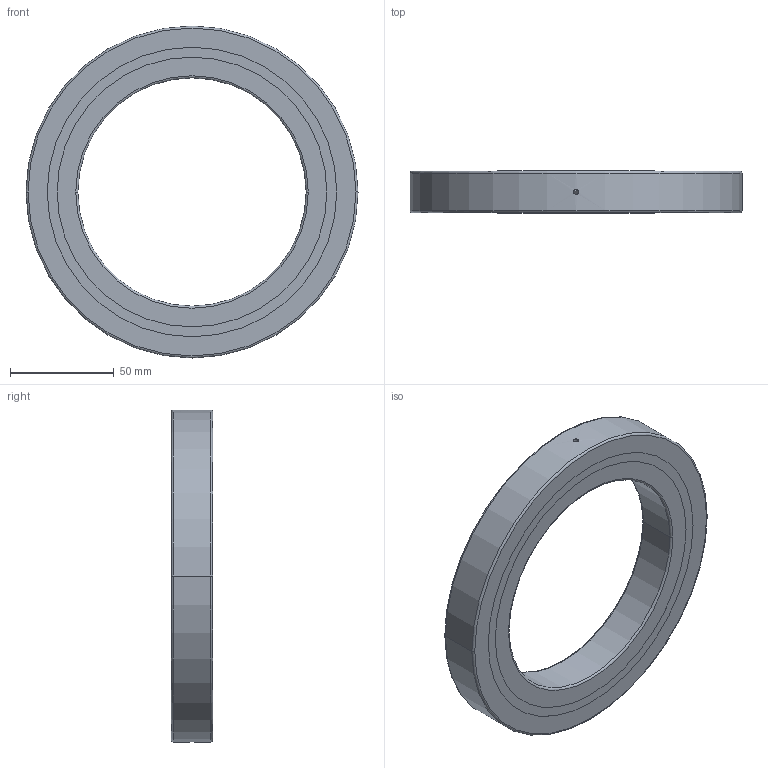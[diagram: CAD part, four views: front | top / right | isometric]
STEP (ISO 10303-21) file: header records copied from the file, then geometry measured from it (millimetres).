
FILE_DESCRIPTION(('starvars output'),'2;1');
FILE_NAME('cv20160920045701000003461.stp','04:57:02 2016/09/20',( 'Thomas Industrial Network Germany GmbH'),( 'Thomas Industrial Network Germany GmbH'),'unknown preprocess','ACIS' ,'unknown authorization');
FILE_SCHEMA(('AUTOMOTIVE_DESIGN_CC2 {UNKNOWN IMPLEMENTATION LEVEL}'));
Length unit declared in the file: millimetre
Products named in the file (1): PRODUCT_ID_2
Bounding box: 160 x 20 x 160 mm (x, y, z)
Volume: 201567.6 mm3; surface area: 73757.3 mm2
Topology: 1 solids, 1 shells, 514 faces, 1266 edges, 870 vertices
Faces by surface type: cylinder 366, plane 124, cone 16, torus 8
Entity records: 20751 total; most frequent: CARTESIAN_POINT 6220, ORIENTED_EDGE 2532, DIRECTION 1458, EDGE_CURVE 1266, VERTEX_POINT 870, EDGE_LOOP 748, FACE_BOUND 748, AXIS2_PLACEMENT_3D 536
